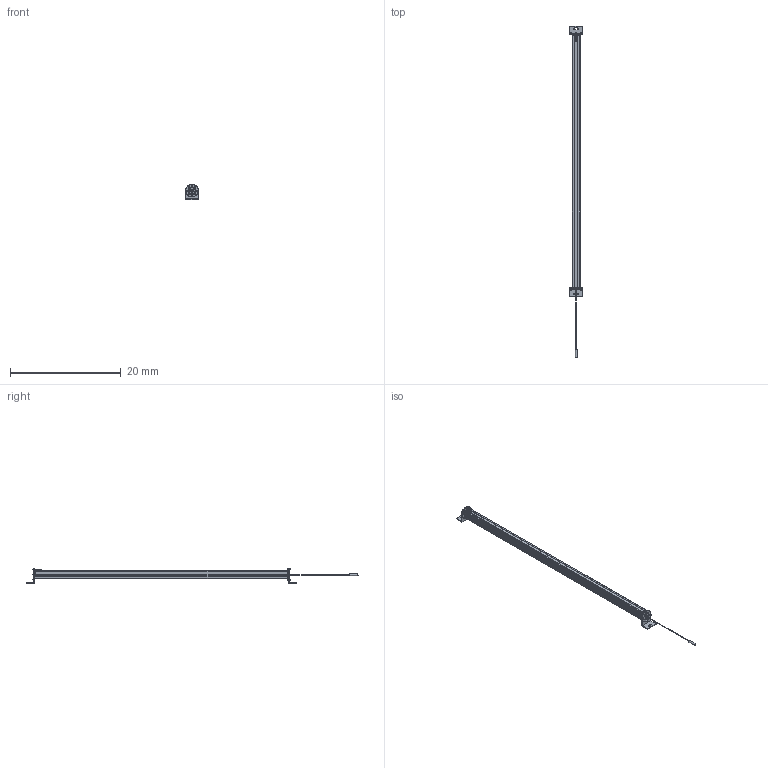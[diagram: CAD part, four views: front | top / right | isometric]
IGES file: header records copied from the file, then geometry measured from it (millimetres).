
Start section:  Autodesk DirectConnect version 7.0.27.0 ---- IGES version 5.3
Global section: file name: C:\ACADFILES\SS_PYLONS\CUSTOMER_FILES\SS-44-PYLON_3D_SMB.iges; native system: Autodesk DirectConnect 7.0.27.0; preprocessor: 7.0.27.0; author: ENGINEERMAIN; organization: Unknown; date: 20150810.125259; units: millimetre
Bounding box: 2.26 x 60.01 x 2.75 mm (x, y, z)
Surface area: 725.2 mm2 (no closed solid volume)
Topology: 0 solids, 0 shells, 754 faces, 3833 edges, 3829 vertices
Faces by surface type: bspline 754
